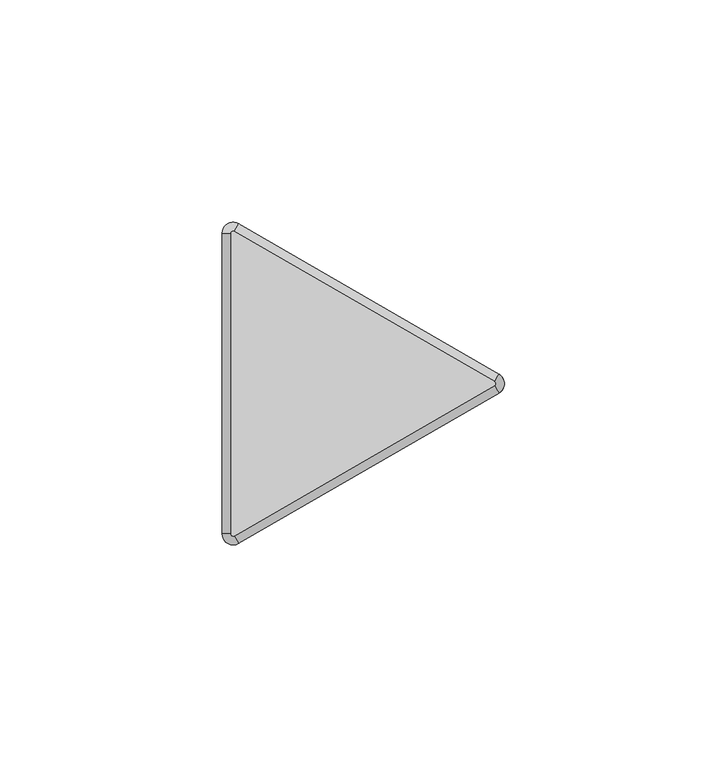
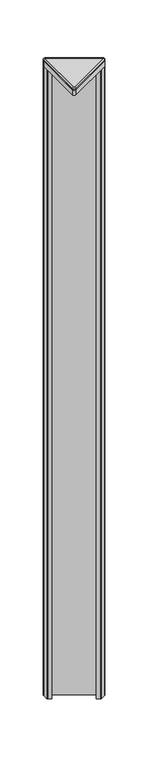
"""IFC4 building model written with IfcOpenShell, lengths in millimetres: furniture geometry, Steelcase - Answer Solution - Panel - 120deg Change-of-Height Trim - Thin : V Corner - 36H for 66H App."""

from ifc_helpers import new_model, si_unit, point, frame, frame_2d, origin, place, context, project, spatial, polyline, circle_curve, ellipse_curve, trimmed, segment, composite_curve, outline, extrude, source, transform, mapped, element, save
from ifc_brep_helpers import plane_surface, cylinder_surface, revolved_surface, advanced_brep


def furniture_f700c2d6(model_context):
    return source(origin(), model_context, "Body", "SolidModel", [
        advanced_brep(
        [(-10.518645, -37.3335529, 1680.8628978), (-14.2052101, -35.2051135, 1680.8628978), (-14.2052101, -35.2051135, 1679.9164663), (-10.518645, -37.3335529, 1679.9164663), (-11.46175, -35.7000471, 1682.75), (-12.319, -35.2051135, 1682.75), (-11.46175, -35.7000471, 1679.9164663), (-12.319, -35.2051135, 1679.9164663), (48.0429908, -3.5229767, 1679.9164663), (48.0429908, -3.5229767, 1680.8628978), (47.0998858, -1.8894709, 1682.75), (47.0998858, -1.8894709, 1679.9164663), (48.0429908, 0.733902, 1680.8628978), (48.0429908, 0.733902, 1679.9164663), (47.0998858, -0.8996038, 1682.75), (47.0998858, -0.8996038, 1679.9164663), (-10.518645, 34.5444782, 1679.9164663), (-14.2052101, 32.4160388, 1679.9164663), (-11.46175, 32.9109723, 1679.9164663), (-12.319, 32.4160388, 1679.9164663), (-10.518645, 34.5444782, 1680.8628978), (-11.46175, 32.9109723, 1682.75), (-14.2052101, 32.4160388, 1680.8628978), (-12.319, 32.4160388, 1682.75)],
        [
            (0, 1, circle_curve(frame((-11.7475, -35.2051135, 1680.8628978), z_axis=(0.0, 0.0, -1.0), x_axis=(-1.0, 0.0, 0.0)), 2.4577101)),
            (1, 2),
            (2, 3, circle_curve(frame((-11.7475, -35.2051135, 1679.9164663), z_axis=(0.0, 0.0, 1.0), x_axis=(-1.0, 0.0, 0.0)), 2.4577101)),
            (3, 0),
            (4, 5, circle_curve(frame((-11.7475, -35.2051135, 1682.75), z_axis=(0.0, 0.0, -1.0), x_axis=(-1.0, 0.0, 0.0)), 0.5715)),
            (5, 1, circle_curve(frame((-12.3181076, -35.2051135, 1680.8628978), z_axis=(0.0, -1.0, 0.0), x_axis=(1.0, 0.0, 0.0)), 1.8871024)),
            (0, 4, circle_curve(frame((-11.4621962, -35.6992743, 1680.8628978), z_axis=(-0.8660254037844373, -0.5000000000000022, 0.0), x_axis=(-0.5000000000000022, 0.8660254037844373, 0.0)), 1.8871024)),
            (6, 7, circle_curve(frame((-11.7475, -35.2051135, 1679.9164663), z_axis=(0.0, 0.0, -1.0), x_axis=(-1.0, 0.0, 0.0)), 0.5715)),
            (7, 5),
            (4, 6),
            (3, 8),
            (8, 9),
            (9, 0),
            (9, 10, circle_curve(frame((47.0994396, -1.8886981, 1680.8628978), z_axis=(-0.8660254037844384, -0.5000000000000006, 0.0), x_axis=(-0.5000000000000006, 0.8660254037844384, 0.0)), 1.8871024)),
            (10, 4),
            (10, 11),
            (11, 6),
            (12, 9, circle_curve(frame((46.8141358, -1.3945374, 1680.8628978), z_axis=(0.0, 0.0, -1.0), x_axis=(0.4999999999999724, -0.8660254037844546, 0.0)), 2.4577101)),
            (8, 13, circle_curve(frame((46.8141358, -1.3945374, 1679.9164663), z_axis=(0.0, 0.0, 1.0), x_axis=(0.4999999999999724, -0.8660254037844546, 0.0)), 2.4577101)),
            (13, 12),
            (14, 10, circle_curve(frame((46.8141358, -1.3945374, 1682.75), z_axis=(0.0, 0.0, -1.0), x_axis=(0.4999999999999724, -0.8660254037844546, 0.0)), 0.5715)),
            (12, 14, circle_curve(frame((47.0994396, -0.9003766, 1680.8628978), z_axis=(0.8660254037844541, -0.49999999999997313, 0.0), x_axis=(-0.49999999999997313, -0.8660254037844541, 0.0)), 1.8871024)),
            (15, 11, circle_curve(frame((46.8141358, -1.3945374, 1679.9164663), z_axis=(0.0, 0.0, -1.0), x_axis=(0.4999999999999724, -0.8660254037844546, 0.0)), 0.5715)),
            (14, 15),
            (16, 13),
            (2, 17),
            (17, 16, circle_curve(frame((-11.7475, 32.4160388, 1679.9164663), z_axis=(0.0, 0.0, -1.0), x_axis=(0.500000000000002, 0.8660254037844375, 0.0)), 2.4577101)),
            (15, 18),
            (18, 19, circle_curve(frame((-11.7475, 32.4160388, 1679.9164663), z_axis=(0.0, 0.0, 1.0), x_axis=(0.500000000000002, 0.8660254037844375, 0.0)), 0.5715)),
            (19, 7),
            (16, 20),
            (20, 12),
            (20, 21, circle_curve(frame((-11.4621962, 32.9101995, 1680.8628978), z_axis=(0.8660254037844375, -0.5000000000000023, 0.0), x_axis=(-0.5000000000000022, -0.8660254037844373, 0.0)), 1.8871024)),
            (21, 14),
            (21, 18),
            (22, 20, circle_curve(frame((-11.7475, 32.4160388, 1680.8628978), z_axis=(0.0, 0.0, -1.0), x_axis=(0.500000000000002, 0.8660254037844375, 0.0)), 2.4577101)),
            (17, 22),
            (23, 21, circle_curve(frame((-11.7475, 32.4160388, 1682.75), z_axis=(0.0, 0.0, -1.0), x_axis=(0.500000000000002, 0.8660254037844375, 0.0)), 0.5715)),
            (22, 23, circle_curve(frame((-12.3181076, 32.4160388, 1680.8628978), z_axis=(0.0, 1.0, 0.0), x_axis=(1.0, 0.0, 0.0)), 1.8871024)),
            (23, 19),
            (1, 22),
            (5, 23),
        ],
        [
            cylinder_surface(frame((-11.7475, -35.2051135, 0.0), z_axis=(0.0, 0.0, 1.0), x_axis=(-1.0, 0.0, 0.0)), 2.4577101),
            revolved_surface(trimmed(ellipse_curve(frame((-12.3181076, -35.2051135, 1680.8628978), z_axis=(0.0, 1.0, 0.0), x_axis=(1.0, 0.0, 0.0)), 1.8871024, 1.8871024), [point((-14.2052101, -35.2051135, 1680.8628978))], [point((-12.319, -35.2051135, 1682.75))], True, "CARTESIAN"), (-11.7475, -35.2051135, 0.0), (0.0, 0.0, 1.0)),
            revolved_surface(polyline([(-12.319, -35.2051135, 1682.75), (-12.319, -35.2051135, 1679.9164663)]), (-11.7475, -35.2051135, 0.0), (0.0, 0.0, 1.0)),
            plane_surface(frame((-10.518645, -37.3335529, 1679.9164663), z_axis=(0.5000000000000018, -0.8660254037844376, 0.0), x_axis=(0.8660254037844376, 0.5000000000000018, 0.0))),
            cylinder_surface(frame((-11.4621962, -35.6992743, 1680.8628978), z_axis=(-0.8660254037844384, -0.5000000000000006, 0.0), x_axis=(-0.5000000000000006, 0.8660254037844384, 0.0)), 1.8871024),
            plane_surface(frame((-11.46175, -35.7000471, 1682.75), z_axis=(-0.4999999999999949, 0.8660254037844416, 0.0), x_axis=(0.8660254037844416, 0.4999999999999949, 0.0))),
            cylinder_surface(frame((46.8141358, -1.3945374, 0.0), z_axis=(0.0, 0.0, 1.0), x_axis=(0.4999999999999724, -0.8660254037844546, 0.0)), 2.4577101),
            revolved_surface(trimmed(ellipse_curve(frame((47.0994396, -1.8886981, 1680.8628978), z_axis=(-0.8660254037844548, -0.499999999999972, 0.0), x_axis=(-0.499999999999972, 0.8660254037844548, 0.0)), 1.8871024, 1.8871024), [point((48.0429908, -3.5229767, 1680.8628978))], [point((47.0998858, -1.8894709, 1682.75))], True, "CARTESIAN"), (46.8141358, -1.3945374, 0.0), (0.0, 0.0, 1.0)),
            revolved_surface(polyline([(47.09988579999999, -1.8894709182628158, 1682.75), (47.09988579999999, -1.8894709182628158, 1679.9164663)]), (46.8141358, -1.3945374, 0.0), (0.0, 0.0, 1.0)),
            plane_surface(frame((47.0998858, -0.8996038, 1679.9164663), z_axis=(0.0, 0.0, -1.0), x_axis=(-0.8660254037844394, 0.4999999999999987, 0.0))),
            plane_surface(frame((48.0429908, 0.733902, 1679.9164663), z_axis=(0.5000000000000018, 0.8660254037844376, 0.0), x_axis=(-0.8660254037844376, 0.5000000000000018, 0.0))),
            cylinder_surface(frame((47.0994396, -0.9003766, 1680.8628978), z_axis=(0.8660254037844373, -0.5000000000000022, 0.0), x_axis=(-0.5000000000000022, -0.8660254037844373, 0.0)), 1.8871024),
            plane_surface(frame((47.0998858, -0.8996038, 1682.75), z_axis=(-0.4999999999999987, -0.8660254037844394, 0.0), x_axis=(-0.8660254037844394, 0.4999999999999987, 0.0))),
            cylinder_surface(frame((-11.7475, 32.4160388, 0.0), z_axis=(0.0, 0.0, 1.0), x_axis=(0.500000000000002, 0.8660254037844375, 0.0)), 2.4577101),
            revolved_surface(trimmed(ellipse_curve(frame((-11.4621962, 32.9101995, 1680.8628978), z_axis=(0.866025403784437, -0.5000000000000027, 0.0), x_axis=(-0.5000000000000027, -0.866025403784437, 0.0)), 1.8871024, 1.8871024), [point((-10.518645, 34.5444782, 1680.8628978))], [point((-11.46175, 32.9109723, 1682.75))], True, "CARTESIAN"), (-11.7475, 32.4160388, 0.0), (0.0, 0.0, 1.0)),
            revolved_surface(polyline([(-11.461749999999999, 32.91097231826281, 1682.75), (-11.461749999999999, 32.91097231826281, 1679.9164663)]), (-11.7475, 32.4160388, 0.0), (0.0, 0.0, 1.0)),
            plane_surface(frame((-14.2052101, 32.4160388, 1679.9164663), z_axis=(-1.0, 0.0, 0.0), x_axis=(0.0, -1.0, 0.0))),
            cylinder_surface(frame((-12.3181076, 32.4160388, 1680.8628978), z_axis=(0.0, 1.0, 0.0), x_axis=(1.0, 0.0, 0.0)), 1.8871024),
            plane_surface(frame((-12.319, 32.4160388, 1682.75), z_axis=(1.0, 0.0, 0.0), x_axis=(0.0, -1.0, 0.0))),
        ],
        [
            (0, [[1, 2, 3, 4]]),
            (1, [[5, 6, -1, 7]]),
            (2, [[8, 9, -5, 10]]),
            (3, [[-4, 11, 12, 13]]),
            (4, [[-7, -13, 14, 15]]),
            (5, [[-10, -15, 16, 17]]),
            (6, [[18, -12, 19, 20]]),
            (7, [[21, -14, -18, 22]]),
            (8, [[23, -16, -21, 24]]),
            (9, [[25, -19, -11, -3, 26, 27], [-8, -17, -23, 28, 29, 30]]),
            (10, [[-20, -25, 31, 32]]),
            (11, [[-22, -32, 33, 34]]),
            (12, [[-24, -34, 35, -28]]),
            (13, [[36, -31, -27, 37]]),
            (14, [[38, -33, -36, 39]]),
            (15, [[-29, -35, -38, 40]]),
            (16, [[-37, -26, -2, 41]]),
            (17, [[-39, -41, -6, 42]]),
            (18, [[-40, -42, -9, -30]]),
        ],
    ),
        extrude(outline(composite_curve([segment(trimmed(circle_curve(frame_2d((46.8261011, -1.3945374)), 0.5655173), [point((47.1088598, -0.904785))], [point((47.1088598, -1.8842897))], False, "CARTESIAN"), True, "CONTINUOUS"), segment(polyline([(47.1088598, -1.8842897), (-11.4505119, -35.6935587)]), True, "CONTINUOUS"), segment(trimmed(circle_curve(frame_2d((-11.7400079, -35.1921369)), 0.5789921), [point((-11.4505119, -35.6935587))], [point((-12.319, -35.1921369))], False, "CARTESIAN"), True, "CONTINUOUS"), segment(polyline([(-12.319, -35.1921369), (-12.319, 32.3985888)]), True, "CONTINUOUS"), segment(trimmed(circle_curve(frame_2d((-11.7374252, 32.3985888)), 0.5815748), [point((-12.319, 32.3985888))], [point((-11.4466378, 32.9022473))], False, "CARTESIAN"), True, "CONTINUOUS"), segment(polyline([(-11.4466378, 32.9022473), (47.1088598, -0.904785)]), True, "CONTINUOUS")], self_intersect=False)), frame((0.0, 0.0, 1679.9164663), z_axis=(0.0, 0.0, 1.0), x_axis=(1.0, 0.0, 0.0)), (0.0, 0.0, 1.0), 2.8335337),
        extrude(outline(composite_curve([segment(trimmed(circle_curve(frame_2d((47.9608454, -1.3945374)), 1.2935425), [point((48.6076166, -0.2742967))], [point((48.6076166, -2.514778))], False, "CARTESIAN"), True, "CONTINUOUS"), segment(polyline([(48.6076166, -2.514778), (41.722656, -6.4898119)]), True, "CONTINUOUS"), segment(trimmed(circle_curve(frame_2d((41.0991304, -5.4098338)), 1.2470513), [point((41.722656, -6.4898119))], [point((40.4756048, -6.4898119))], False, "CARTESIAN"), True, "CONTINUOUS"), segment(polyline([(40.4756048, -6.4898119), (36.3239304, -4.0928416), (36.7811304, -3.300948), (41.0991304, -5.7939464), (47.3502407, -2.1848662)]), True, "CONTINUOUS"), segment(trimmed(circle_curve(frame_2d((46.8939441, -1.3945374)), 0.9125932), [point((47.3502407, -2.1848662))], [point((47.3502407, -0.6042085))], True, "CARTESIAN"), True, "CONTINUOUS"), segment(polyline([(47.3502407, -0.6042085), (-11.3312768, 33.2755814)]), True, "CONTINUOUS"), segment(trimmed(circle_curve(frame_2d((-11.7875179, 32.4853487)), 0.9124821), [point((-11.3312768, 33.2755814))], [point((-12.7, 32.4853487))], True, "CARTESIAN"), True, "CONTINUOUS"), segment(polyline([(-12.7, 32.4853487), (-12.7, 25.266996), (-8.382, 22.7739975), (-8.8392, 21.9821039), (-12.9583282, 24.3602837)]), True, "CONTINUOUS"), segment(trimmed(circle_curve(frame_2d((-12.3022565, 25.4966333)), 1.3121435), [point((-12.9583282, 24.3602837))], [point((-13.6144, 25.4966333))], False, "CARTESIAN"), True, "CONTINUOUS"), segment(polyline([(-13.6144, 25.4966333), (-13.6144, 33.3957138)]), True, "CONTINUOUS"), segment(trimmed(circle_curve(frame_2d((-12.3131174, 33.3957138)), 1.3012826), [point((-13.6144, 33.3957138))], [point((-11.6624761, 34.5226576))], False, "CARTESIAN"), True, "CONTINUOUS"), segment(polyline([(-11.6624761, 34.5226576), (48.6076166, -0.2742967)]), True, "CONTINUOUS")], self_intersect=False)), frame((0.0, 0.0, 768.35), z_axis=(0.0, 0.0, 1.0), x_axis=(1.0, 0.0, 0.0)), (0.0, 0.0, 1.0), 904.24),
        extrude(outline(composite_curve([segment(trimmed(circle_curve(frame_2d((46.8140443, -1.3945374)), 2.4577558), [point((48.0429222, 0.7339416))], [point((48.0429222, -3.5230163))], False, "CARTESIAN"), True, "CONTINUOUS"), segment(polyline([(48.0429222, -3.5230163), (-10.518058, -37.333214)]), True, "CONTINUOUS"), segment(trimmed(circle_curve(frame_2d((-11.7471087, -35.2044357)), 2.4581014), [point((-10.518058, -37.333214))], [point((-14.2052101, -35.2044357))], False, "CARTESIAN"), True, "CONTINUOUS"), segment(polyline([(-14.2052101, -35.2044357), (-14.2052101, 32.4160388)]), True, "CONTINUOUS"), segment(trimmed(circle_curve(frame_2d((-11.7475, 32.4160388)), 2.4577101), [point((-14.2052101, 32.4160388))], [point((-10.518645, 34.5444782))], False, "CARTESIAN"), True, "CONTINUOUS"), segment(polyline([(-10.518645, 34.5444782), (48.0429222, 0.7339416)]), True, "CONTINUOUS")], self_intersect=False)), frame((0.0, 0.0, 1672.59), z_axis=(0.0, 0.0, 1.0), x_axis=(1.0, 0.0, 0.0)), (0.0, 0.0, 1.0), 7.3264663),
    ])


if __name__ == "__main__":
    model = new_model("IFC4")
    model_context = context("Model", 3, world=origin())
    ifc_project = project(units=[si_unit("LENGTHUNIT", "METRE", prefix="MILLI")], contexts=[model_context])
    site = spatial("IfcSite", under=ifc_project)
    building = spatial("IfcBuilding", under=site)
    placement = place(None, origin())
    furniture_shape = furniture_f700c2d6(model_context)
    element("IfcFurniture", 1, ObjectType="Steelcase - Answer Solution - Panel - 120deg Change-of-Height Trim - Thin : V Corner - 36H for 66H App", at=placement, inside=building, context=model_context, shape_type="MappedRepresentation", body=[
        mapped(furniture_shape, transform((0.0, 0.0, 0.0), x_axis=(1.0, 0.0, 0.0), y_axis=(0.0, 1.0, 0.0), z_axis=(0.0, 0.0, 1.0))),
    ])
    save(model, "model.ifc")
